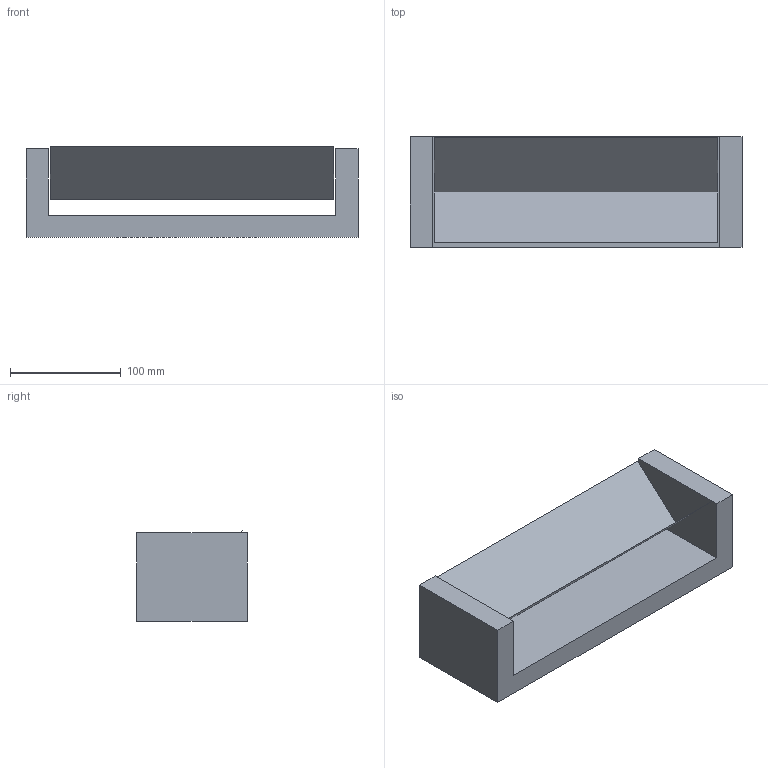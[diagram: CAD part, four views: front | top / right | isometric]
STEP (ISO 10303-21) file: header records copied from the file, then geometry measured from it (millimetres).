
FILE_DESCRIPTION (( 'STEP AP203' ), '1' );
FILE_NAME ('APPEDRO30.STEP', '2025-06-20T08:00:41', ( '' ), ( '' ), 'SwSTEP 2.0', 'SolidWorks 2024', '' );
FILE_SCHEMA (( 'CONFIG_CONTROL_DESIGN' ));
Length unit declared in the file: millimetre
Products named in the file (1): APPEDRO30
Bounding box: 300 x 100 x 81.97 mm (x, y, z)
Surface area: 138622.1 mm2 (no closed solid volume)
Topology: 0 solids, 2 shells, 12 faces, 31 edges, 22 vertices
Faces by surface type: plane 12
Entity records: 437 total; most frequent: CARTESIAN_POINT 66, DIRECTION 57, ORIENTED_EDGE 56, LINE 31, EDGE_CURVE 31, VECTOR 31, VERTEX_POINT 22, AXIS2_PLACEMENT_3D 13
